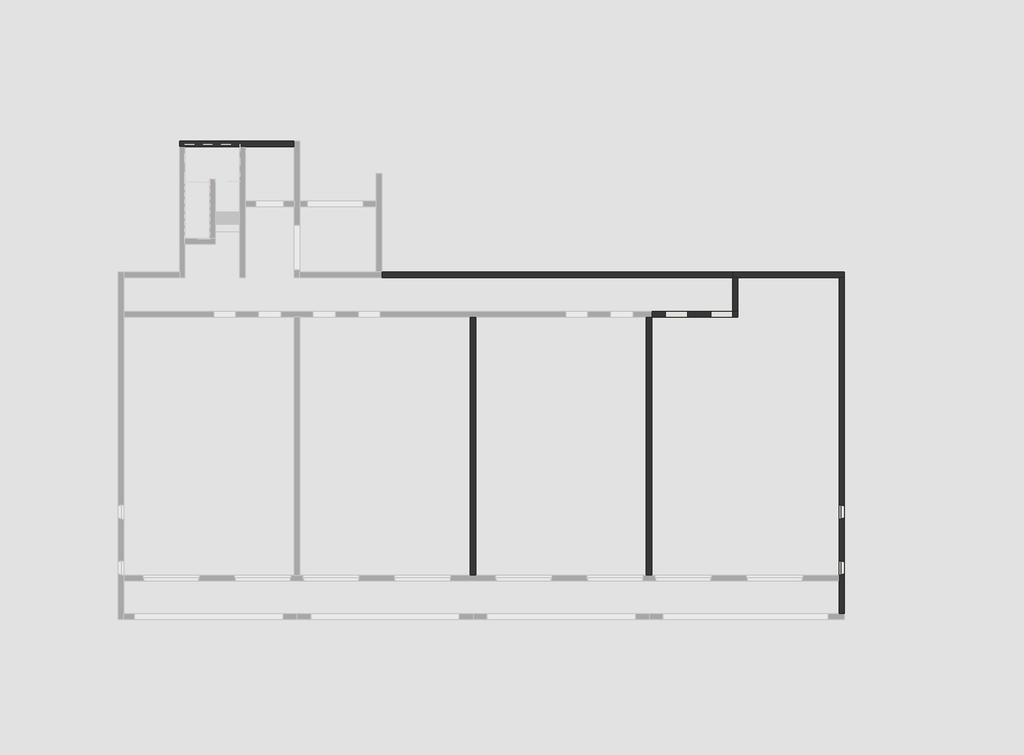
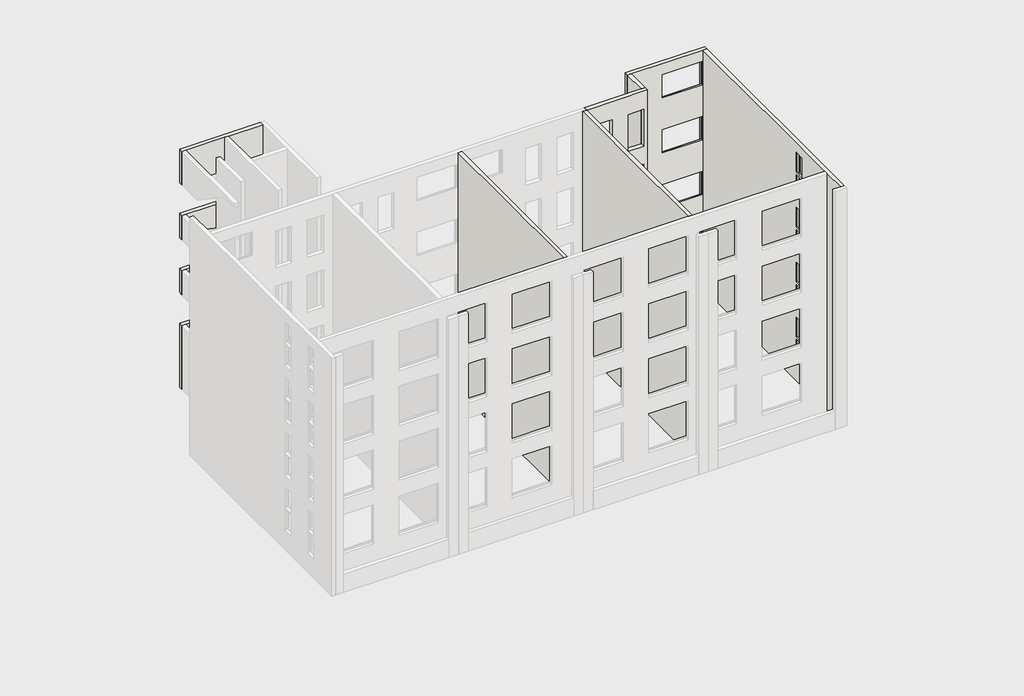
# One storey, part 4 of 5: 8 walls.
"""IFC4 building model written with IfcOpenShell, lengths in millimetres."""

from ifc_helpers import new_model, si_unit, frame, origin, place, context, project, spatial, polyline, outline, extrude, faceted_brep, element, save

model = new_model("IFC4")

# Units and contexts
model_context = context("Model", 3, world=origin())
ifc_project = project(units=[si_unit("LENGTHUNIT", "METRE", prefix="MILLI")], contexts=[model_context])

# Site, building, storey
site = spatial("IfcSite", under=ifc_project)
building = spatial("IfcBuilding", under=site)
storey = spatial("IfcBuildingStorey", under=building, Name="設計GL", Elevation=0.0)

# Walls
placement = place(None, origin())
element("IfcWall", 1, ObjectType="(R)RC200", at=placement, inside=storey, context=model_context, shape_type="Brep", body=[
    faceted_brep([(8271.2812754, -15270.1171638, -1200.0), (8271.2812754, -5800.1171638, -1200.0), (8271.2812754, -5800.1171638, 13000.0), (8271.2812754, -9720.1171638, 13000.0), (8271.2812754, -9920.1171638, 13000.0), (8271.2812754, -15270.1171638, 13000.0), (8071.2812754, -15270.1171638, -1200.0), (8071.2812754, -15270.1171638, 13000.0), (8071.2812754, -9920.1171638, 13000.0), (8071.2812754, -9720.1171638, 13000.0), (8071.2812754, -5800.1171638, 13000.0), (8071.2812754, -5800.1171638, -1200.0)], [[[0, 1, 2, 3, 4, 5]], [[6, 7, 8, 9, 10, 11]], [[1, 0, 6, 11]], [[5, 4, 3, 2, 10, 9, 8, 7]], [[0, 5, 7, 6]], [[2, 1, 11, 10]]]),
])
element("IfcWall", 2, ObjectType="(R)RC200", at=placement, inside=storey, context=model_context, shape_type="Brep", body=[
    faceted_brep([(11221.2812754, -4350.1171638, 13000.0), (11221.2812754, -4350.1171638, 11100.0), (11221.2812754, -4350.1171638, 9800.0), (11221.2812754, -4350.1171638, 8100.0), (11221.2812754, -4350.1171638, 6800.0), (11221.2812754, -4350.1171638, 5100.0), (11221.2812754, -4350.1171638, 3800.0), (11221.2812754, -4350.1171638, 2100.0), (11221.2812754, -4350.1171638, -1200.0), (11421.2812754, -4350.1171638, -1200.0), (15121.2812754, -4350.1171638, -1200.0), (15321.2812754, -4350.1171638, -1200.0), (15321.2812754, -4350.1171638, 13000.0), (15121.2812754, -4350.1171638, 13000.0), (11421.2812754, -4350.1171638, 13000.0), (15111.2812754, -4350.1171638, 3385.0), (15111.2812754, -4350.1171638, 2115.0), (13031.2812754, -4350.1171638, 2115.0), (13031.2812754, -4350.1171638, 3385.0), (15111.2812754, -4350.1171638, 6385.0), (15111.2812754, -4350.1171638, 5115.0), (13031.2812754, -4350.1171638, 5115.0), (13031.2812754, -4350.1171638, 6385.0), (15111.2812754, -4350.1171638, 9385.0), (15111.2812754, -4350.1171638, 8115.0), (13031.2812754, -4350.1171638, 8115.0), (13031.2812754, -4350.1171638, 9385.0), (15111.2812754, -4350.1171638, 12385.0), (15111.2812754, -4350.1171638, 11115.0), (13031.2812754, -4350.1171638, 11115.0), (13031.2812754, -4350.1171638, 12385.0), (11221.2812754, -4150.1171638, -1200.0), (11221.2812754, -4150.1171638, 2100.0), (11221.2812754, -4150.1171638, 3800.0), (11221.2812754, -4150.1171638, 5100.0), (11221.2812754, -4150.1171638, 6800.0), (11221.2812754, -4150.1171638, 8100.0), (11221.2812754, -4150.1171638, 9800.0), (11221.2812754, -4150.1171638, 11100.0), (11221.2812754, -4150.1171638, 13000.0), (15321.2812754, -4150.1171638, 13000.0), (15321.2812754, -4150.1171638, -1200.0), (13061.2812754, -4150.1171638, 2025.0), (15081.2812754, -4150.1171638, 2025.0), (15081.2812754, -4150.1171638, 3360.0), (13061.2812754, -4150.1171638, 3360.0), (13061.2812754, -4150.1171638, 5025.0), (15081.2812754, -4150.1171638, 5025.0), (15081.2812754, -4150.1171638, 6360.0), (13061.2812754, -4150.1171638, 6360.0), (13061.2812754, -4150.1171638, 8025.0), (15081.2812754, -4150.1171638, 8025.0), (15081.2812754, -4150.1171638, 9360.0), (13061.2812754, -4150.1171638, 9360.0), (13061.2812754, -4150.1171638, 11025.0), (15081.2812754, -4150.1171638, 11025.0), (15081.2812754, -4150.1171638, 12360.0), (13061.2812754, -4150.1171638, 12360.0), (15111.2812754, -4280.1171638, 3385.0), (15111.2812754, -4280.1171638, 2115.0), (13031.2812754, -4280.1171638, 2115.0), (13031.2812754, -4280.1171638, 3385.0), (15101.2812754, -4280.1171638, 2115.0), (13041.2812754, -4280.1171638, 2115.0), (13041.2812754, -4280.1171638, 3380.0), (15101.2812754, -4280.1171638, 3380.0), (15101.2812754, -4210.1171638, 3380.0), (15101.2812754, -4210.1171638, 2034.2307692), (15101.2812754, -4280.1171638, 2045.0), (13041.2812754, -4280.1171638, 2045.0), (13041.2812754, -4210.1171638, 2034.2307692), (13041.2812754, -4210.1171638, 3380.0), (15081.2812754, -4210.1171638, 2034.2307692), (13061.2812754, -4210.1171638, 2034.2307692), (13061.2812754, -4210.1171638, 3360.0), (15081.2812754, -4210.1171638, 3360.0), (15111.2812754, -4280.1171638, 6385.0), (15111.2812754, -4280.1171638, 5115.0), (13031.2812754, -4280.1171638, 5115.0), (13031.2812754, -4280.1171638, 6385.0), (15101.2812754, -4280.1171638, 5115.0), (13041.2812754, -4280.1171638, 5115.0), (13041.2812754, -4280.1171638, 6380.0), (15101.2812754, -4280.1171638, 6380.0), (15101.2812754, -4210.1171638, 6380.0), (15101.2812754, -4210.1171638, 5034.2307692), (15101.2812754, -4280.1171638, 5045.0), (13041.2812754, -4280.1171638, 5045.0), (13041.2812754, -4210.1171638, 5034.2307692), (13041.2812754, -4210.1171638, 6380.0), (15081.2812754, -4210.1171638, 5034.2307692), (13061.2812754, -4210.1171638, 5034.2307692), (13061.2812754, -4210.1171638, 6360.0), (15081.2812754, -4210.1171638, 6360.0), (15111.2812754, -4280.1171638, 9385.0), (15111.2812754, -4280.1171638, 8115.0), (13031.2812754, -4280.1171638, 8115.0), (13031.2812754, -4280.1171638, 9385.0), (15101.2812754, -4280.1171638, 8115.0), (13041.2812754, -4280.1171638, 8115.0), (13041.2812754, -4280.1171638, 9380.0), (15101.2812754, -4280.1171638, 9380.0), (15101.2812754, -4210.1171638, 9380.0), (15101.2812754, -4210.1171638, 8034.2307692), (15101.2812754, -4280.1171638, 8045.0), (13041.2812754, -4280.1171638, 8045.0), (13041.2812754, -4210.1171638, 8034.2307692), (13041.2812754, -4210.1171638, 9380.0), (15081.2812754, -4210.1171638, 8034.2307692), (13061.2812754, -4210.1171638, 8034.2307692), (13061.2812754, -4210.1171638, 9360.0), (15081.2812754, -4210.1171638, 9360.0), (15111.2812754, -4280.1171638, 12385.0), (15111.2812754, -4280.1171638, 11115.0), (13031.2812754, -4280.1171638, 11115.0), (13031.2812754, -4280.1171638, 12385.0), (15101.2812754, -4280.1171638, 11115.0), (13041.2812754, -4280.1171638, 11115.0), (13041.2812754, -4280.1171638, 12380.0), (15101.2812754, -4280.1171638, 12380.0), (15101.2812754, -4210.1171638, 12380.0), (15101.2812754, -4210.1171638, 11034.2307692), (15101.2812754, -4280.1171638, 11045.0), (13041.2812754, -4280.1171638, 11045.0), (13041.2812754, -4210.1171638, 11034.2307692), (13041.2812754, -4210.1171638, 12380.0), (15081.2812754, -4210.1171638, 11034.2307692), (13061.2812754, -4210.1171638, 11034.2307692), (13061.2812754, -4210.1171638, 12360.0), (15081.2812754, -4210.1171638, 12360.0)], [[[0, 1, 2, 3, 4, 5, 6, 7, 8, 9, 10, 11, 12, 13, 14], [15, 16, 17, 18], [19, 20, 21, 22], [23, 24, 25, 26], [27, 28, 29, 30]], [[31, 32, 33, 34, 35, 36, 37, 38, 39, 40, 41], [42, 43, 44, 45], [46, 47, 48, 49], [50, 51, 52, 53], [54, 55, 56, 57]], [[11, 10, 9, 8, 31, 41]], [[0, 14, 13, 12, 40, 39]], [[12, 11, 41, 40]], [[58, 59, 16, 15]], [[60, 61, 18, 17]], [[16, 59, 62, 63, 60, 17]], [[59, 58, 61, 60, 63, 64, 65, 62]], [[61, 58, 15, 18]], [[65, 66, 67, 68, 62]], [[69, 70, 71, 64, 63]], [[68, 67, 72, 43, 42, 73, 70, 69]], [[67, 66, 71, 70, 73, 74, 75, 72]], [[66, 65, 64, 71]], [[68, 69, 63, 62]], [[75, 44, 43, 72]], [[73, 42, 45, 74]], [[44, 75, 74, 45]], [[76, 77, 20, 19]], [[78, 79, 22, 21]], [[20, 77, 80, 81, 78, 21]], [[77, 76, 79, 78, 81, 82, 83, 80]], [[79, 76, 19, 22]], [[83, 84, 85, 86, 80]], [[87, 88, 89, 82, 81]], [[86, 85, 90, 47, 46, 91, 88, 87]], [[85, 84, 89, 88, 91, 92, 93, 90]], [[84, 83, 82, 89]], [[86, 87, 81, 80]], [[93, 48, 47, 90]], [[91, 46, 49, 92]], [[48, 93, 92, 49]], [[94, 95, 24, 23]], [[96, 97, 26, 25]], [[24, 95, 98, 99, 96, 25]], [[95, 94, 97, 96, 99, 100, 101, 98]], [[97, 94, 23, 26]], [[101, 102, 103, 104, 98]], [[105, 106, 107, 100, 99]], [[104, 103, 108, 51, 50, 109, 106, 105]], [[103, 102, 107, 106, 109, 110, 111, 108]], [[102, 101, 100, 107]], [[104, 105, 99, 98]], [[111, 52, 51, 108]], [[109, 50, 53, 110]], [[52, 111, 110, 53]], [[112, 113, 28, 27]], [[114, 115, 30, 29]], [[28, 113, 116, 117, 114, 29]], [[113, 112, 115, 114, 117, 118, 119, 116]], [[115, 112, 27, 30]], [[119, 120, 121, 122, 116]], [[123, 124, 125, 118, 117]], [[122, 121, 126, 55, 54, 127, 124, 123]], [[121, 120, 125, 124, 127, 128, 129, 126]], [[120, 119, 118, 125]], [[122, 123, 117, 116]], [[129, 56, 55, 126]], [[127, 54, 57, 128]], [[56, 129, 128, 57]], [[0, 39, 38, 37, 36, 35, 34, 33, 32, 31, 8, 7, 6, 5, 4, 3, 2, 1]]]),
])
element("IfcWall", 3, ObjectType="(R)RC200", at=placement, inside=storey, context=model_context, shape_type="Brep", body=[
    faceted_brep([(15121.2812754, -4350.1171638, -1200.0), (15121.2812754, -15270.1171638, -1200.0), (15121.2812754, -15470.1171638, -1200.0), (15121.2812754, -16670.1171638, -1200.0), (15121.2812754, -16670.1171638, 13000.0), (15121.2812754, -15470.1171638, 13000.0), (15121.2812754, -15270.1171638, 13000.0), (15121.2812754, -9920.1171638, 13000.0), (15121.2812754, -9720.1171638, 13000.0), (15121.2812754, -4350.1171638, 13000.0), (15121.2812754, -12680.1171638, 2395.0), (15121.2812754, -12680.1171638, 3465.0), (15121.2812754, -13210.1171638, 3465.0), (15121.2812754, -13210.1171638, 2395.0), (15121.2812754, -14730.1171638, 2395.0), (15121.2812754, -14730.1171638, 3465.0), (15121.2812754, -15260.1171638, 3465.0), (15121.2812754, -15260.1171638, 2395.0), (15121.2812754, -12680.1171638, 1175.0), (15121.2812754, -12680.1171638, 2245.0), (15121.2812754, -13210.1171638, 2245.0), (15121.2812754, -13210.1171638, 1175.0), (15121.2812754, -14730.1171638, 1175.0), (15121.2812754, -14730.1171638, 2245.0), (15121.2812754, -15260.1171638, 2245.0), (15121.2812754, -15260.1171638, 1175.0), (15121.2812754, -12680.1171638, 5395.0), (15121.2812754, -12680.1171638, 6465.0), (15121.2812754, -13210.1171638, 6465.0), (15121.2812754, -13210.1171638, 5395.0), (15121.2812754, -14730.1171638, 5395.0), (15121.2812754, -14730.1171638, 6465.0), (15121.2812754, -15260.1171638, 6465.0), (15121.2812754, -15260.1171638, 5395.0), (15121.2812754, -12680.1171638, 4175.0), (15121.2812754, -12680.1171638, 5245.0), (15121.2812754, -13210.1171638, 5245.0), (15121.2812754, -13210.1171638, 4175.0), (15121.2812754, -14730.1171638, 4175.0), (15121.2812754, -14730.1171638, 5245.0), (15121.2812754, -15260.1171638, 5245.0), (15121.2812754, -15260.1171638, 4175.0), (15121.2812754, -12680.1171638, 8395.0), (15121.2812754, -12680.1171638, 9465.0), (15121.2812754, -13210.1171638, 9465.0), (15121.2812754, -13210.1171638, 8395.0), (15121.2812754, -14730.1171638, 8395.0), (15121.2812754, -14730.1171638, 9465.0), (15121.2812754, -15260.1171638, 9465.0), (15121.2812754, -15260.1171638, 8395.0), (15121.2812754, -12680.1171638, 7175.0), (15121.2812754, -12680.1171638, 8245.0), (15121.2812754, -13210.1171638, 8245.0), (15121.2812754, -13210.1171638, 7175.0), (15121.2812754, -14730.1171638, 7175.0), (15121.2812754, -14730.1171638, 8245.0), (15121.2812754, -15260.1171638, 8245.0), (15121.2812754, -15260.1171638, 7175.0), (15121.2812754, -12680.1171638, 11395.0), (15121.2812754, -12680.1171638, 12465.0), (15121.2812754, -13210.1171638, 12465.0), (15121.2812754, -13210.1171638, 11395.0), (15121.2812754, -14730.1171638, 11395.0), (15121.2812754, -14730.1171638, 12465.0), (15121.2812754, -15260.1171638, 12465.0), (15121.2812754, -15260.1171638, 11395.0), (15121.2812754, -12680.1171638, 10175.0), (15121.2812754, -12680.1171638, 11245.0), (15121.2812754, -13210.1171638, 11245.0), (15121.2812754, -13210.1171638, 10175.0), (15121.2812754, -14730.1171638, 10175.0), (15121.2812754, -14730.1171638, 11245.0), (15121.2812754, -15260.1171638, 11245.0), (15121.2812754, -15260.1171638, 10175.0), (15321.2812754, -4350.1171638, -1200.0), (15321.2812754, -4350.1171638, 13000.0), (15321.2812754, -16670.1171638, 13000.0), (15321.2812754, -16670.1171638, -1200.0), (15321.2812754, -12710.1171638, 2305.0), (15321.2812754, -13180.1171638, 2305.0), (15321.2812754, -13180.1171638, 3440.0), (15321.2812754, -12710.1171638, 3440.0), (15321.2812754, -14760.1171638, 2305.0), (15321.2812754, -15230.1171638, 2305.0), (15321.2812754, -15230.1171638, 3440.0), (15321.2812754, -14760.1171638, 3440.0), (15321.2812754, -12710.1171638, 1085.0), (15321.2812754, -13180.1171638, 1085.0), (15321.2812754, -13180.1171638, 2220.0), (15321.2812754, -12710.1171638, 2220.0), (15321.2812754, -14760.1171638, 1085.0), (15321.2812754, -15230.1171638, 1085.0), (15321.2812754, -15230.1171638, 2220.0), (15321.2812754, -14760.1171638, 2220.0), (15321.2812754, -12710.1171638, 5305.0), (15321.2812754, -13180.1171638, 5305.0), (15321.2812754, -13180.1171638, 6440.0), (15321.2812754, -12710.1171638, 6440.0), (15321.2812754, -14760.1171638, 5305.0), (15321.2812754, -15230.1171638, 5305.0), (15321.2812754, -15230.1171638, 6440.0), (15321.2812754, -14760.1171638, 6440.0), (15321.2812754, -12710.1171638, 4085.0), (15321.2812754, -13180.1171638, 4085.0), (15321.2812754, -13180.1171638, 5220.0), (15321.2812754, -12710.1171638, 5220.0), (15321.2812754, -14760.1171638, 4085.0), (15321.2812754, -15230.1171638, 4085.0), (15321.2812754, -15230.1171638, 5220.0), (15321.2812754, -14760.1171638, 5220.0), (15321.2812754, -12710.1171638, 8305.0), (15321.2812754, -13180.1171638, 8305.0), (15321.2812754, -13180.1171638, 9440.0), (15321.2812754, -12710.1171638, 9440.0), (15321.2812754, -14760.1171638, 8305.0), (15321.2812754, -15230.1171638, 8305.0), (15321.2812754, -15230.1171638, 9440.0), (15321.2812754, -14760.1171638, 9440.0), (15321.2812754, -12710.1171638, 7085.0), (15321.2812754, -13180.1171638, 7085.0), (15321.2812754, -13180.1171638, 8220.0), (15321.2812754, -12710.1171638, 8220.0), (15321.2812754, -14760.1171638, 7085.0), (15321.2812754, -15230.1171638, 7085.0), (15321.2812754, -15230.1171638, 8220.0), (15321.2812754, -14760.1171638, 8220.0), (15321.2812754, -12710.1171638, 11305.0), (15321.2812754, -13180.1171638, 11305.0), (15321.2812754, -13180.1171638, 12440.0), (15321.2812754, -12710.1171638, 12440.0), (15321.2812754, -14760.1171638, 11305.0), (15321.2812754, -15230.1171638, 11305.0), (15321.2812754, -15230.1171638, 12440.0), (15321.2812754, -14760.1171638, 12440.0), (15321.2812754, -12710.1171638, 10085.0), (15321.2812754, -13180.1171638, 10085.0), (15321.2812754, -13180.1171638, 11220.0), (15321.2812754, -12710.1171638, 11220.0), (15321.2812754, -14760.1171638, 10085.0), (15321.2812754, -15230.1171638, 10085.0), (15321.2812754, -15230.1171638, 11220.0), (15321.2812754, -14760.1171638, 11220.0), (15191.2812754, -12680.1171638, 3465.0), (15191.2812754, -12680.1171638, 2395.0), (15191.2812754, -13210.1171638, 2395.0), (15191.2812754, -13210.1171638, 3465.0), (15191.2812754, -13200.1171638, 2395.0), (15191.2812754, -12690.1171638, 2395.0), (15191.2812754, -12690.1171638, 3460.0), (15191.2812754, -13200.1171638, 3460.0), (15191.2812754, -12690.1171638, 2325.0), (15261.2812754, -12690.1171638, 2314.2307692), (15261.2812754, -12690.1171638, 3460.0), (15191.2812754, -13200.1171638, 2325.0), (15261.2812754, -13200.1171638, 3460.0), (15261.2812754, -13200.1171638, 2314.2307692), (15261.2812754, -13180.1171638, 2314.2307692), (15261.2812754, -12710.1171638, 2314.2307692), (15261.2812754, -12710.1171638, 3440.0), (15261.2812754, -13180.1171638, 3440.0), (15191.2812754, -14730.1171638, 3465.0), (15191.2812754, -14730.1171638, 2395.0), (15191.2812754, -15260.1171638, 2395.0), (15191.2812754, -15260.1171638, 3465.0), (15191.2812754, -15250.1171638, 2395.0), (15191.2812754, -14740.1171638, 2395.0), (15191.2812754, -14740.1171638, 3460.0), (15191.2812754, -15250.1171638, 3460.0), (15191.2812754, -14740.1171638, 2325.0), (15261.2812754, -14740.1171638, 2314.2307692), (15261.2812754, -14740.1171638, 3460.0), (15191.2812754, -15250.1171638, 2325.0), (15261.2812754, -15250.1171638, 3460.0), (15261.2812754, -15250.1171638, 2314.2307692), (15261.2812754, -15230.1171638, 2314.2307692), (15261.2812754, -14760.1171638, 2314.2307692), (15261.2812754, -14760.1171638, 3440.0), (15261.2812754, -15230.1171638, 3440.0), (15191.2812754, -12680.1171638, 2245.0), (15191.2812754, -12680.1171638, 1175.0), (15191.2812754, -13210.1171638, 1175.0), (15191.2812754, -13210.1171638, 2245.0), (15191.2812754, -13200.1171638, 1175.0), (15191.2812754, -12690.1171638, 1175.0), (15191.2812754, -12690.1171638, 2240.0), (15191.2812754, -13200.1171638, 2240.0), (15191.2812754, -12690.1171638, 1105.0), (15261.2812754, -12690.1171638, 1094.2307692), (15261.2812754, -12690.1171638, 2240.0), (15191.2812754, -13200.1171638, 1105.0), (15261.2812754, -13200.1171638, 2240.0), (15261.2812754, -13200.1171638, 1094.2307692), (15261.2812754, -13180.1171638, 1094.2307692), (15261.2812754, -12710.1171638, 1094.2307692), (15261.2812754, -12710.1171638, 2220.0), (15261.2812754, -13180.1171638, 2220.0), (15191.2812754, -14730.1171638, 2245.0), (15191.2812754, -14730.1171638, 1175.0), (15191.2812754, -15260.1171638, 1175.0), (15191.2812754, -15260.1171638, 2245.0), (15191.2812754, -15250.1171638, 1175.0), (15191.2812754, -14740.1171638, 1175.0), (15191.2812754, -14740.1171638, 2240.0), (15191.2812754, -15250.1171638, 2240.0), (15191.2812754, -14740.1171638, 1105.0), (15261.2812754, -14740.1171638, 1094.2307692), (15261.2812754, -14740.1171638, 2240.0), (15191.2812754, -15250.1171638, 1105.0), (15261.2812754, -15250.1171638, 2240.0), (15261.2812754, -15250.1171638, 1094.2307692), (15261.2812754, -15230.1171638, 1094.2307692), (15261.2812754, -14760.1171638, 1094.2307692), (15261.2812754, -14760.1171638, 2220.0), (15261.2812754, -15230.1171638, 2220.0), (15191.2812754, -12680.1171638, 6465.0), (15191.2812754, -12680.1171638, 5395.0), (15191.2812754, -13210.1171638, 5395.0), (15191.2812754, -13210.1171638, 6465.0), (15191.2812754, -13200.1171638, 5395.0), (15191.2812754, -12690.1171638, 5395.0), (15191.2812754, -12690.1171638, 6460.0), (15191.2812754, -13200.1171638, 6460.0), (15191.2812754, -12690.1171638, 5325.0), (15261.2812754, -12690.1171638, 5314.2307692), (15261.2812754, -12690.1171638, 6460.0), (15191.2812754, -13200.1171638, 5325.0), (15261.2812754, -13200.1171638, 6460.0), (15261.2812754, -13200.1171638, 5314.2307692), (15261.2812754, -13180.1171638, 5314.2307692), (15261.2812754, -12710.1171638, 5314.2307692), (15261.2812754, -12710.1171638, 6440.0), (15261.2812754, -13180.1171638, 6440.0), (15191.2812754, -14730.1171638, 6465.0), (15191.2812754, -14730.1171638, 5395.0), (15191.2812754, -15260.1171638, 5395.0), (15191.2812754, -15260.1171638, 6465.0), (15191.2812754, -15250.1171638, 5395.0), (15191.2812754, -14740.1171638, 5395.0), (15191.2812754, -14740.1171638, 6460.0), (15191.2812754, -15250.1171638, 6460.0), (15191.2812754, -14740.1171638, 5325.0), (15261.2812754, -14740.1171638, 5314.2307692), (15261.2812754, -14740.1171638, 6460.0), (15191.2812754, -15250.1171638, 5325.0), (15261.2812754, -15250.1171638, 6460.0), (15261.2812754, -15250.1171638, 5314.2307692), (15261.2812754, -15230.1171638, 5314.2307692), (15261.2812754, -14760.1171638, 5314.2307692), (15261.2812754, -14760.1171638, 6440.0), (15261.2812754, -15230.1171638, 6440.0), (15191.2812754, -12680.1171638, 5245.0), (15191.2812754, -12680.1171638, 4175.0), (15191.2812754, -13210.1171638, 4175.0), (15191.2812754, -13210.1171638, 5245.0), (15191.2812754, -13200.1171638, 4175.0), (15191.2812754, -12690.1171638, 4175.0), (15191.2812754, -12690.1171638, 5240.0), (15191.2812754, -13200.1171638, 5240.0), (15191.2812754, -12690.1171638, 4105.0), (15261.2812754, -12690.1171638, 4094.2307692), (15261.2812754, -12690.1171638, 5240.0), (15191.2812754, -13200.1171638, 4105.0), (15261.2812754, -13200.1171638, 5240.0), (15261.2812754, -13200.1171638, 4094.2307692), (15261.2812754, -13180.1171638, 4094.2307692), (15261.2812754, -12710.1171638, 4094.2307692), (15261.2812754, -12710.1171638, 5220.0), (15261.2812754, -13180.1171638, 5220.0), (15191.2812754, -14730.1171638, 5245.0), (15191.2812754, -14730.1171638, 4175.0), (15191.2812754, -15260.1171638, 4175.0), (15191.2812754, -15260.1171638, 5245.0), (15191.2812754, -15250.1171638, 4175.0), (15191.2812754, -14740.1171638, 4175.0), (15191.2812754, -14740.1171638, 5240.0), (15191.2812754, -15250.1171638, 5240.0), (15191.2812754, -14740.1171638, 4105.0), (15261.2812754, -14740.1171638, 4094.2307692), (15261.2812754, -14740.1171638, 5240.0), (15191.2812754, -15250.1171638, 4105.0), (15261.2812754, -15250.1171638, 5240.0), (15261.2812754, -15250.1171638, 4094.2307692), (15261.2812754, -15230.1171638, 4094.2307692), (15261.2812754, -14760.1171638, 4094.2307692), (15261.2812754, -14760.1171638, 5220.0), (15261.2812754, -15230.1171638, 5220.0), (15191.2812754, -12680.1171638, 9465.0), (15191.2812754, -12680.1171638, 8395.0), (15191.2812754, -13210.1171638, 8395.0), (15191.2812754, -13210.1171638, 9465.0), (15191.2812754, -13200.1171638, 8395.0), (15191.2812754, -12690.1171638, 8395.0), (15191.2812754, -12690.1171638, 9460.0), (15191.2812754, -13200.1171638, 9460.0), (15191.2812754, -12690.1171638, 8325.0), (15261.2812754, -12690.1171638, 8314.2307692), (15261.2812754, -12690.1171638, 9460.0), (15191.2812754, -13200.1171638, 8325.0), (15261.2812754, -13200.1171638, 9460.0), (15261.2812754, -13200.1171638, 8314.2307692), (15261.2812754, -13180.1171638, 8314.2307692), (15261.2812754, -12710.1171638, 8314.2307692), (15261.2812754, -12710.1171638, 9440.0), (15261.2812754, -13180.1171638, 9440.0), (15191.2812754, -14730.1171638, 9465.0), (15191.2812754, -14730.1171638, 8395.0), (15191.2812754, -15260.1171638, 8395.0), (15191.2812754, -15260.1171638, 9465.0), (15191.2812754, -15250.1171638, 8395.0), (15191.2812754, -14740.1171638, 8395.0), (15191.2812754, -14740.1171638, 9460.0), (15191.2812754, -15250.1171638, 9460.0), (15191.2812754, -14740.1171638, 8325.0), (15261.2812754, -14740.1171638, 8314.2307692), (15261.2812754, -14740.1171638, 9460.0), (15191.2812754, -15250.1171638, 8325.0), (15261.2812754, -15250.1171638, 9460.0), (15261.2812754, -15250.1171638, 8314.2307692), (15261.2812754, -15230.1171638, 8314.2307692), (15261.2812754, -14760.1171638, 8314.2307692), (15261.2812754, -14760.1171638, 9440.0), (15261.2812754, -15230.1171638, 9440.0), (15191.2812754, -12680.1171638, 8245.0), (15191.2812754, -12680.1171638, 7175.0), (15191.2812754, -13210.1171638, 7175.0), (15191.2812754, -13210.1171638, 8245.0), (15191.2812754, -13200.1171638, 7175.0), (15191.2812754, -12690.1171638, 7175.0), (15191.2812754, -12690.1171638, 8240.0), (15191.2812754, -13200.1171638, 8240.0), (15191.2812754, -12690.1171638, 7105.0), (15261.2812754, -12690.1171638, 7094.2307692), (15261.2812754, -12690.1171638, 8240.0), (15191.2812754, -13200.1171638, 7105.0), (15261.2812754, -13200.1171638, 8240.0), (15261.2812754, -13200.1171638, 7094.2307692), (15261.2812754, -13180.1171638, 7094.2307692), (15261.2812754, -12710.1171638, 7094.2307692), (15261.2812754, -12710.1171638, 8220.0), (15261.2812754, -13180.1171638, 8220.0), (15191.2812754, -14730.1171638, 8245.0), (15191.2812754, -14730.1171638, 7175.0), (15191.2812754, -15260.1171638, 7175.0), (15191.2812754, -15260.1171638, 8245.0), (15191.2812754, -15250.1171638, 7175.0), (15191.2812754, -14740.1171638, 7175.0), (15191.2812754, -14740.1171638, 8240.0), (15191.2812754, -15250.1171638, 8240.0), (15191.2812754, -14740.1171638, 7105.0), (15261.2812754, -14740.1171638, 7094.2307692), (15261.2812754, -14740.1171638, 8240.0), (15191.2812754, -15250.1171638, 7105.0), (15261.2812754, -15250.1171638, 8240.0), (15261.2812754, -15250.1171638, 7094.2307692), (15261.2812754, -15230.1171638, 7094.2307692), (15261.2812754, -14760.1171638, 7094.2307692), (15261.2812754, -14760.1171638, 8220.0), (15261.2812754, -15230.1171638, 8220.0), (15191.2812754, -12680.1171638, 12465.0), (15191.2812754, -12680.1171638, 11395.0), (15191.2812754, -13210.1171638, 11395.0), (15191.2812754, -13210.1171638, 12465.0), (15191.2812754, -13200.1171638, 11395.0), (15191.2812754, -12690.1171638, 11395.0), (15191.2812754, -12690.1171638, 12460.0), (15191.2812754, -13200.1171638, 12460.0), (15191.2812754, -12690.1171638, 11325.0), (15261.2812754, -12690.1171638, 11314.2307692), (15261.2812754, -12690.1171638, 12460.0), (15191.2812754, -13200.1171638, 11325.0), (15261.2812754, -13200.1171638, 12460.0), (15261.2812754, -13200.1171638, 11314.2307692), (15261.2812754, -13180.1171638, 11314.2307692), (15261.2812754, -12710.1171638, 11314.2307692), (15261.2812754, -12710.1171638, 12440.0), (15261.2812754, -13180.1171638, 12440.0), (15191.2812754, -14730.1171638, 12465.0), (15191.2812754, -14730.1171638, 11395.0), (15191.2812754, -15260.1171638, 11395.0), (15191.2812754, -15260.1171638, 12465.0), (15191.2812754, -15250.1171638, 11395.0), (15191.2812754, -14740.1171638, 11395.0), (15191.2812754, -14740.1171638, 12460.0), (15191.2812754, -15250.1171638, 12460.0), (15191.2812754, -14740.1171638, 11325.0), (15261.2812754, -14740.1171638, 11314.2307692), (15261.2812754, -14740.1171638, 12460.0), (15191.2812754, -15250.1171638, 11325.0), (15261.2812754, -15250.1171638, 12460.0), (15261.2812754, -15250.1171638, 11314.2307692), (15261.2812754, -15230.1171638, 11314.2307692), (15261.2812754, -14760.1171638, 11314.2307692), (15261.2812754, -14760.1171638, 12440.0), (15261.2812754, -15230.1171638, 12440.0), (15191.2812754, -12680.1171638, 11245.0), (15191.2812754, -12680.1171638, 10175.0), (15191.2812754, -13210.1171638, 10175.0), (15191.2812754, -13210.1171638, 11245.0), (15191.2812754, -13200.1171638, 10175.0), (15191.2812754, -12690.1171638, 10175.0), (15191.2812754, -12690.1171638, 11240.0), (15191.2812754, -13200.1171638, 11240.0), (15191.2812754, -12690.1171638, 10105.0), (15261.2812754, -12690.1171638, 10094.2307692), (15261.2812754, -12690.1171638, 11240.0), (15191.2812754, -13200.1171638, 10105.0), (15261.2812754, -13200.1171638, 11240.0), (15261.2812754, -13200.1171638, 10094.2307692), (15261.2812754, -13180.1171638, 10094.2307692), (15261.2812754, -12710.1171638, 10094.2307692), (15261.2812754, -12710.1171638, 11220.0), (15261.2812754, -13180.1171638, 11220.0), (15191.2812754, -14730.1171638, 11245.0), (15191.2812754, -14730.1171638, 10175.0), (15191.2812754, -15260.1171638, 10175.0), (15191.2812754, -15260.1171638, 11245.0), (15191.2812754, -15250.1171638, 10175.0), (15191.2812754, -14740.1171638, 10175.0), (15191.2812754, -14740.1171638, 11240.0), (15191.2812754, -15250.1171638, 11240.0), (15191.2812754, -14740.1171638, 10105.0), (15261.2812754, -14740.1171638, 10094.2307692), (15261.2812754, -14740.1171638, 11240.0), (15191.2812754, -15250.1171638, 10105.0), (15261.2812754, -15250.1171638, 11240.0), (15261.2812754, -15250.1171638, 10094.2307692), (15261.2812754, -15230.1171638, 10094.2307692), (15261.2812754, -14760.1171638, 10094.2307692), (15261.2812754, -14760.1171638, 11220.0), (15261.2812754, -15230.1171638, 11220.0)], [[[0, 1, 2, 3, 4, 5, 6, 7, 8, 9], [10, 11, 12, 13], [14, 15, 16, 17], [18, 19, 20, 21], [22, 23, 24, 25], [26, 27, 28, 29], [30, 31, 32, 33], [34, 35, 36, 37], [38, 39, 40, 41], [42, 43, 44, 45], [46, 47, 48, 49], [50, 51, 52, 53], [54, 55, 56, 57], [58, 59, 60, 61], [62, 63, 64, 65], [66, 67, 68, 69], [70, 71, 72, 73]], [[74, 75, 76, 77], [78, 79, 80, 81], [82, 83, 84, 85], [86, 87, 88, 89], [90, 91, 92, 93], [94, 95, 96, 97], [98, 99, 100, 101], [102, 103, 104, 105], [106, 107, 108, 109], [110, 111, 112, 113], [114, 115, 116, 117], [118, 119, 120, 121], [122, 123, 124, 125], [126, 127, 128, 129], [130, 131, 132, 133], [134, 135, 136, 137], [138, 139, 140, 141]], [[3, 2, 1, 0, 74, 77]], [[9, 8, 7, 6, 5, 4, 76, 75]], [[0, 9, 75, 74]], [[142, 11, 10, 143]], [[144, 13, 12, 145]], [[10, 13, 144, 146, 147, 143]], [[143, 147, 148, 149, 146, 144, 145, 142]], [[145, 12, 11, 142]], [[148, 147, 150, 151, 152]], [[153, 146, 149, 154, 155]], [[150, 153, 155, 156, 79, 78, 157, 151]], [[151, 157, 158, 159, 156, 155, 154, 152]], [[152, 154, 149, 148]], [[150, 147, 146, 153]], [[158, 157, 78, 81]], [[156, 159, 80, 79]], [[81, 80, 159, 158]], [[160, 15, 14, 161]], [[162, 17, 16, 163]], [[14, 17, 162, 164, 165, 161]], [[161, 165, 166, 167, 164, 162, 163, 160]], [[163, 16, 15, 160]], [[166, 165, 168, 169, 170]], [[171, 164, 167, 172, 173]], [[168, 171, 173, 174, 83, 82, 175, 169]], [[169, 175, 176, 177, 174, 173, 172, 170]], [[170, 172, 167, 166]], [[168, 165, 164, 171]], [[176, 175, 82, 85]], [[174, 177, 84, 83]], [[85, 84, 177, 176]], [[178, 19, 18, 179]], [[180, 21, 20, 181]], [[18, 21, 180, 182, 183, 179]], [[179, 183, 184, 185, 182, 180, 181, 178]], [[181, 20, 19, 178]], [[184, 183, 186, 187, 188]], [[189, 182, 185, 190, 191]], [[186, 189, 191, 192, 87, 86, 193, 187]], [[187, 193, 194, 195, 192, 191, 190, 188]], [[188, 190, 185, 184]], [[186, 183, 182, 189]], [[194, 193, 86, 89]], [[192, 195, 88, 87]], [[89, 88, 195, 194]], [[196, 23, 22, 197]], [[198, 25, 24, 199]], [[22, 25, 198, 200, 201, 197]], [[197, 201, 202, 203, 200, 198, 199, 196]], [[199, 24, 23, 196]], [[202, 201, 204, 205, 206]], [[207, 200, 203, 208, 209]], [[204, 207, 209, 210, 91, 90, 211, 205]], [[205, 211, 212, 213, 210, 209, 208, 206]], [[206, 208, 203, 202]], [[204, 201, 200, 207]], [[212, 211, 90, 93]], [[210, 213, 92, 91]], [[93, 92, 213, 212]], [[4, 3, 77, 76]], [[214, 27, 26, 215]], [[216, 29, 28, 217]], [[26, 29, 216, 218, 219, 215]], [[215, 219, 220, 221, 218, 216, 217, 214]], [[217, 28, 27, 214]], [[220, 219, 222, 223, 224]], [[225, 218, 221, 226, 227]], [[222, 225, 227, 228, 95, 94, 229, 223]], [[223, 229, 230, 231, 228, 227, 226, 224]], [[224, 226, 221, 220]], [[222, 219, 218, 225]], [[230, 229, 94, 97]], [[228, 231, 96, 95]], [[97, 96, 231, 230]], [[232, 31, 30, 233]], [[234, 33, 32, 235]], [[30, 33, 234, 236, 237, 233]], [[233, 237, 238, 239, 236, 234, 235, 232]], [[235, 32, 31, 232]], [[238, 237, 240, 241, 242]], [[243, 236, 239, 244, 245]], [[240, 243, 245, 246, 99, 98, 247, 241]], [[241, 247, 248, 249, 246, 245, 244, 242]], [[242, 244, 239, 238]], [[240, 237, 236, 243]], [[248, 247, 98, 101]], [[246, 249, 100, 99]], [[101, 100, 249, 248]], [[250, 35, 34, 251]], [[252, 37, 36, 253]], [[34, 37, 252, 254, 255, 251]], [[251, 255, 256, 257, 254, 252, 253, 250]], [[253, 36, 35, 250]], [[256, 255, 258, 259, 260]], [[261, 254, 257, 262, 263]], [[258, 261, 263, 264, 103, 102, 265, 259]], [[259, 265, 266, 267, 264, 263, 262, 260]], [[260, 262, 257, 256]], [[258, 255, 254, 261]], [[266, 265, 102, 105]], [[264, 267, 104, 103]], [[105, 104, 267, 266]], [[268, 39, 38, 269]], [[270, 41, 40, 271]], [[38, 41, 270, 272, 273, 269]], [[269, 273, 274, 275, 272, 270, 271, 268]], [[271, 40, 39, 268]], [[274, 273, 276, 277, 278]], [[279, 272, 275, 280, 281]], [[276, 279, 281, 282, 107, 106, 283, 277]], [[277, 283, 284, 285, 282, 281, 280, 278]], [[278, 280, 275, 274]], [[276, 273, 272, 279]], [[284, 283, 106, 109]], [[282, 285, 108, 107]], [[109, 108, 285, 284]], [[286, 43, 42, 287]], [[288, 45, 44, 289]], [[42, 45, 288, 290, 291, 287]], [[287, 291, 292, 293, 290, 288, 289, 286]], [[289, 44, 43, 286]], [[292, 291, 294, 295, 296]], [[297, 290, 293, 298, 299]], [[294, 297, 299, 300, 111, 110, 301, 295]], [[295, 301, 302, 303, 300, 299, 298, 296]], [[296, 298, 293, 292]], [[294, 291, 290, 297]], [[302, 301, 110, 113]], [[300, 303, 112, 111]], [[113, 112, 303, 302]], [[304, 47, 46, 305]], [[306, 49, 48, 307]], [[46, 49, 306, 308, 309, 305]], [[305, 309, 310, 311, 308, 306, 307, 304]], [[307, 48, 47, 304]], [[310, 309, 312, 313, 314]], [[315, 308, 311, 316, 317]], [[312, 315, 317, 318, 115, 114, 319, 313]], [[313, 319, 320, 321, 318, 317, 316, 314]], [[314, 316, 311, 310]], [[312, 309, 308, 315]], [[320, 319, 114, 117]], [[318, 321, 116, 115]], [[117, 116, 321, 320]], [[322, 51, 50, 323]], [[324, 53, 52, 325]], [[50, 53, 324, 326, 327, 323]], [[323, 327, 328, 329, 326, 324, 325, 322]], [[325, 52, 51, 322]], [[328, 327, 330, 331, 332]], [[333, 326, 329, 334, 335]], [[330, 333, 335, 336, 119, 118, 337, 331]], [[331, 337, 338, 339, 336, 335, 334, 332]], [[332, 334, 329, 328]], [[330, 327, 326, 333]], [[338, 337, 118, 121]], [[336, 339, 120, 119]], [[121, 120, 339, 338]], [[340, 55, 54, 341]], [[342, 57, 56, 343]], [[54, 57, 342, 344, 345, 341]], [[341, 345, 346, 347, 344, 342, 343, 340]], [[343, 56, 55, 340]], [[346, 345, 348, 349, 350]], [[351, 344, 347, 352, 353]], [[348, 351, 353, 354, 123, 122, 355, 349]], [[349, 355, 356, 357, 354, 353, 352, 350]], [[350, 352, 347, 346]], [[348, 345, 344, 351]], [[356, 355, 122, 125]], [[354, 357, 124, 123]], [[125, 124, 357, 356]], [[358, 59, 58, 359]], [[360, 61, 60, 361]], [[58, 61, 360, 362, 363, 359]], [[359, 363, 364, 365, 362, 360, 361, 358]], [[361, 60, 59, 358]], [[364, 363, 366, 367, 368]], [[369, 362, 365, 370, 371]], [[366, 369, 371, 372, 127, 126, 373, 367]], [[367, 373, 374, 375, 372, 371, 370, 368]], [[368, 370, 365, 364]], [[366, 363, 362, 369]], [[374, 373, 126, 129]], [[372, 375, 128, 127]], [[129, 128, 375, 374]], [[376, 63, 62, 377]], [[378, 65, 64, 379]], [[62, 65, 378, 380, 381, 377]], [[377, 381, 382, 383, 380, 378, 379, 376]], [[379, 64, 63, 376]], [[382, 381, 384, 385, 386]], [[387, 380, 383, 388, 389]], [[384, 387, 389, 390, 131, 130, 391, 385]], [[385, 391, 392, 393, 390, 389, 388, 386]], [[386, 388, 383, 382]], [[384, 381, 380, 387]], [[392, 391, 130, 133]], [[390, 393, 132, 131]], [[133, 132, 393, 392]], [[394, 67, 66, 395]], [[396, 69, 68, 397]], [[66, 69, 396, 398, 399, 395]], [[395, 399, 400, 401, 398, 396, 397, 394]], [[397, 68, 67, 394]], [[400, 399, 402, 403, 404]], [[405, 398, 401, 406, 407]], [[402, 405, 407, 408, 135, 134, 409, 403]], [[403, 409, 410, 411, 408, 407, 406, 404]], [[404, 406, 401, 400]], [[402, 399, 398, 405]], [[410, 409, 134, 137]], [[408, 411, 136, 135]], [[137, 136, 411, 410]], [[412, 71, 70, 413]], [[414, 73, 72, 415]], [[70, 73, 414, 416, 417, 413]], [[413, 417, 418, 419, 416, 414, 415, 412]], [[415, 72, 71, 412]], [[418, 417, 420, 421, 422]], [[423, 416, 419, 424, 425]], [[420, 423, 425, 426, 139, 138, 427, 421]], [[421, 427, 428, 429, 426, 425, 424, 422]], [[422, 424, 419, 418]], [[420, 417, 416, 423]], [[428, 427, 138, 141]], [[426, 429, 140, 139]], [[141, 140, 429, 428]]]),
])
element("IfcWall", 4, ObjectType="(R)RC200", at=placement, inside=storey, context=model_context, shape_type="Brep", body=[
    faceted_brep([(1621.2812754, -5800.1171638, -1200.0), (1621.2812754, -15270.1171638, -1200.0), (1621.2812754, -15270.1171638, 13000.0), (1621.2812754, -9920.1171638, 13000.0), (1621.2812754, -9720.1171638, 13000.0), (1621.2812754, -5800.1171638, 13000.0), (1821.2812754, -15270.1171638, -1200.0), (1821.2812754, -5800.1171638, -1200.0), (1821.2812754, -5800.1171638, 13000.0), (1821.2812754, -9720.1171638, 13000.0), (1821.2812754, -9920.1171638, 13000.0), (1821.2812754, -15270.1171638, 13000.0)], [[[0, 1, 2, 3, 4, 5]], [[6, 7, 8, 9, 10, 11]], [[1, 0, 7, 6]], [[5, 4, 3, 2, 11, 10, 9, 8]], [[2, 1, 6, 11]], [[0, 5, 8, 7]]]),
])
element("IfcWall", 5, ObjectType="(R)RC200", at=placement, inside=storey, context=model_context, shape_type="Brep", body=[
    faceted_brep([(8271.2812754, -5800.1171638, -1200.0), (11421.2812754, -5800.1171638, -1200.0), (11421.2812754, -5800.1171638, 1000.0), (11421.2812754, -5800.1171638, 3500.0), (11421.2812754, -5800.1171638, 4000.0), (11421.2812754, -5800.1171638, 6500.0), (11421.2812754, -5800.1171638, 7000.0), (11421.2812754, -5800.1171638, 9500.0), (11421.2812754, -5800.1171638, 10000.0), (11421.2812754, -5800.1171638, 12500.0), (11421.2812754, -5800.1171638, 13000.0), (8271.2812754, -5800.1171638, 13000.0), (9591.2812754, -5800.1171638, 3020.0), (9591.2812754, -5800.1171638, 1000.0), (8751.2812754, -5800.1171638, 1000.0), (8751.2812754, -5800.1171638, 3020.0), (10421.2812754, -5800.1171638, 1000.0), (10421.2812754, -5800.1171638, 3000.0), (11221.2812754, -5800.1171638, 3000.0), (11221.2812754, -5800.1171638, 1000.0), (10421.2812754, -5800.1171638, 4000.0), (10421.2812754, -5800.1171638, 6000.0), (11221.2812754, -5800.1171638, 6000.0), (11221.2812754, -5800.1171638, 4000.0), (9591.2812754, -5800.1171638, 6020.0), (9591.2812754, -5800.1171638, 4000.0), (8751.2812754, -5800.1171638, 4000.0), (8751.2812754, -5800.1171638, 6020.0), (10421.2812754, -5800.1171638, 7000.0), (10421.2812754, -5800.1171638, 9000.0), (11221.2812754, -5800.1171638, 9000.0), (11221.2812754, -5800.1171638, 7000.0), (9591.2812754, -5800.1171638, 9020.0), (9591.2812754, -5800.1171638, 7000.0), (8751.2812754, -5800.1171638, 7000.0), (8751.2812754, -5800.1171638, 9020.0), (10421.2812754, -5800.1171638, 10000.0), (10421.2812754, -5800.1171638, 12000.0), (11221.2812754, -5800.1171638, 12000.0), (11221.2812754, -5800.1171638, 10000.0), (9591.2812754, -5800.1171638, 12020.0), (9591.2812754, -5800.1171638, 10000.0), (8751.2812754, -5800.1171638, 10000.0), (8751.2812754, -5800.1171638, 12020.0), (8271.2812754, -5600.1171638, -1200.0), (8271.2812754, -5600.1171638, 13000.0), (11221.2812754, -5600.1171638, 13000.0), (11421.2812754, -5600.1171638, 13000.0), (11421.2812754, -5600.1171638, -1200.0), (11221.2812754, -5600.1171638, -1200.0), (9591.2812754, -5600.1171638, 3020.0), (8751.2812754, -5600.1171638, 3020.0), (8751.2812754, -5600.1171638, 1000.0), (9591.2812754, -5600.1171638, 1000.0), (10421.2812754, -5600.1171638, 1000.0), (11221.2812754, -5600.1171638, 1000.0), (11221.2812754, -5600.1171638, 3000.0), (10421.2812754, -5600.1171638, 3000.0), (10421.2812754, -5600.1171638, 4000.0), (11221.2812754, -5600.1171638, 4000.0), (11221.2812754, -5600.1171638, 6000.0), (10421.2812754, -5600.1171638, 6000.0), (9591.2812754, -5600.1171638, 6020.0), (8751.2812754, -5600.1171638, 6020.0), (8751.2812754, -5600.1171638, 4000.0), (9591.2812754, -5600.1171638, 4000.0), (10421.2812754, -5600.1171638, 7000.0), (11221.2812754, -5600.1171638, 7000.0), (11221.2812754, -5600.1171638, 9000.0), (10421.2812754, -5600.1171638, 9000.0), (9591.2812754, -5600.1171638, 9020.0), (8751.2812754, -5600.1171638, 9020.0), (8751.2812754, -5600.1171638, 7000.0), (9591.2812754, -5600.1171638, 7000.0), (10421.2812754, -5600.1171638, 10000.0), (11221.2812754, -5600.1171638, 10000.0), (11221.2812754, -5600.1171638, 12000.0), (10421.2812754, -5600.1171638, 12000.0), (9591.2812754, -5600.1171638, 12020.0), (8751.2812754, -5600.1171638, 12020.0), (8751.2812754, -5600.1171638, 10000.0), (9591.2812754, -5600.1171638, 10000.0)], [[[0, 1, 2, 3, 4, 5, 6, 7, 8, 9, 10, 11], [12, 13, 14, 15], [16, 17, 18, 19], [20, 21, 22, 23], [24, 25, 26, 27], [28, 29, 30, 31], [32, 33, 34, 35], [36, 37, 38, 39], [40, 41, 42, 43]], [[44, 45, 46, 47, 48, 49], [50, 51, 52, 53], [54, 55, 56, 57], [58, 59, 60, 61], [62, 63, 64, 65], [66, 67, 68, 69], [70, 71, 72, 73], [74, 75, 76, 77], [78, 79, 80, 81]], [[1, 0, 44, 49, 48]], [[11, 10, 47, 46, 45]], [[0, 11, 45, 44]], [[13, 12, 50, 53]], [[14, 13, 53, 52]], [[15, 14, 52, 51]], [[12, 15, 51, 50]], [[17, 16, 54, 57]], [[18, 17, 57, 56]], [[19, 18, 56, 55]], [[16, 19, 55, 54]], [[21, 20, 58, 61]], [[22, 21, 61, 60]], [[23, 22, 60, 59]], [[20, 23, 59, 58]], [[25, 24, 62, 65]], [[26, 25, 65, 64]], [[27, 26, 64, 63]], [[24, 27, 63, 62]], [[29, 28, 66, 69]], [[30, 29, 69, 68]], [[31, 30, 68, 67]], [[28, 31, 67, 66]], [[33, 32, 70, 73]], [[34, 33, 73, 72]], [[35, 34, 72, 71]], [[32, 35, 71, 70]], [[37, 36, 74, 77]], [[38, 37, 77, 76]], [[39, 38, 76, 75]], [[36, 39, 75, 74]], [[41, 40, 78, 81]], [[42, 41, 81, 80]], [[43, 42, 80, 79]], [[40, 43, 79, 78]], [[1, 48, 47, 10, 9, 8, 7, 6, 5, 4, 3, 2]]]),
])
element("IfcWall", 6, ObjectType="(R)RC200", at=placement, inside=storey, context=model_context, shape_type="Brep", body=[
    faceted_brep([(11421.2812754, -5600.1171638, 13000.0), (11421.2812754, -5600.1171638, -1200.0), (11421.2812754, -4350.1171638, -1200.0), (11421.2812754, -4350.1171638, 13000.0), (11221.2812754, -5600.1171638, -1200.0), (11221.2812754, -5600.1171638, 1000.0), (11221.2812754, -5600.1171638, 3000.0), (11221.2812754, -5600.1171638, 4000.0), (11221.2812754, -5600.1171638, 6000.0), (11221.2812754, -5600.1171638, 7000.0), (11221.2812754, -5600.1171638, 9000.0), (11221.2812754, -5600.1171638, 10000.0), (11221.2812754, -5600.1171638, 12000.0), (11221.2812754, -5600.1171638, 13000.0), (11221.2812754, -4350.1171638, 13000.0), (11221.2812754, -4350.1171638, -1200.0)], [[[0, 1, 2, 3]], [[4, 5, 6, 7, 8, 9, 10, 11, 12, 13, 14, 15]], [[2, 1, 4, 15]], [[0, 3, 14, 13]], [[0, 13, 12, 11, 10, 9, 8, 7, 6, 5, 4, 1]], [[2, 15, 14, 3]]]),
])
element("IfcWall", 7, ObjectType="(R)RC200", at=placement, inside=storey, context=model_context, shape_type="Brep", body=[
    faceted_brep([(-4828.7187246, 649.8828362, -1200.0), (-9028.7187246, 649.8828362, -1200.0), (-9028.7187246, 649.8828362, 3500.0), (-6828.7187246, 649.8828362, 3500.0), (-6828.7187246, 649.8828362, 5181.7647059), (-9028.7187246, 649.8828362, 5181.7647059), (-9028.7187246, 649.8828362, 6500.0), (-6828.7187246, 649.8828362, 6500.0), (-6828.7187246, 649.8828362, 8181.7647059), (-9028.7187246, 649.8828362, 8181.7647059), (-9028.7187246, 649.8828362, 9500.0), (-6828.7187246, 649.8828362, 9500.0), (-6828.7187246, 649.8828362, 11181.7647059), (-9028.7187246, 649.8828362, 11181.7647059), (-9028.7187246, 649.8828362, 13000.0), (-4828.7187246, 649.8828362, 13000.0), (-4828.7187246, 449.8828362, -1200.0), (-4828.7187246, 449.8828362, 13000.0), (-6628.7187246, 449.8828362, 13000.0), (-6828.7187246, 449.8828362, 13000.0), (-8828.7187246, 449.8828362, 13000.0), (-9028.7187246, 449.8828362, 13000.0), (-9028.7187246, 449.8828362, 11181.7647059), (-8828.7187246, 449.8828362, 11181.7647059), (-6828.7187246, 449.8828362, 11181.7647059), (-6828.7187246, 449.8828362, 9500.0), (-8828.7187246, 449.8828362, 9500.0), (-9028.7187246, 449.8828362, 9500.0), (-9028.7187246, 449.8828362, 8181.7647059), (-8828.7187246, 449.8828362, 8181.7647059), (-6828.7187246, 449.8828362, 8181.7647059), (-6828.7187246, 449.8828362, 6500.0), (-8828.7187246, 449.8828362, 6500.0), (-9028.7187246, 449.8828362, 6500.0), (-9028.7187246, 449.8828362, 5181.7647059), (-8828.7187246, 449.8828362, 5181.7647059), (-6828.7187246, 449.8828362, 5181.7647059), (-6828.7187246, 449.8828362, 3500.0), (-8828.7187246, 449.8828362, 3500.0), (-9028.7187246, 449.8828362, 3500.0), (-9028.7187246, 449.8828362, -1200.0), (-8828.7187246, 449.8828362, -1200.0), (-6828.7187246, 449.8828362, -1200.0), (-6628.7187246, 449.8828362, -1200.0)], [[[0, 1, 2, 3, 4, 5, 6, 7, 8, 9, 10, 11, 12, 13, 14, 15]], [[16, 17, 18, 19, 20, 21, 22, 23, 24, 25, 26, 27, 28, 29, 30, 31, 32, 33, 34, 35, 36, 37, 38, 39, 40, 41, 42, 43]], [[0, 15, 17, 16]], [[2, 1, 40, 39]], [[1, 0, 16, 43, 42, 41, 40]], [[15, 14, 21, 20, 19, 18, 17]], [[3, 2, 39, 38, 37]], [[4, 3, 37, 36]], [[5, 4, 36, 35, 34]], [[7, 6, 33, 32, 31]], [[8, 7, 31, 30]], [[9, 8, 30, 29, 28]], [[11, 10, 27, 26, 25]], [[12, 11, 25, 24]], [[13, 12, 24, 23, 22]], [[6, 5, 34, 33]], [[10, 9, 28, 27]], [[14, 13, 22, 21]]]),
])
element("IfcWall", 8, ObjectType="(R)RC200", at=placement, inside=storey, context=model_context, shape_type="SweptSolid", body=[
    extrude(outline(polyline([(11221.2812754, -4350.1171638), (-1628.7187246, -4350.1171638), (-1628.7187246, -4150.1171638), (11221.2812754, -4150.1171638), (11221.2812754, -4350.1171638)])), frame((0.0, 0.0, -1200.0), z_axis=(0.0, 0.0, 1.0), x_axis=(1.0, 0.0, 0.0)), (0.0, 0.0, 1.0), 3300.0),
])

save(model, "model.ifc")
